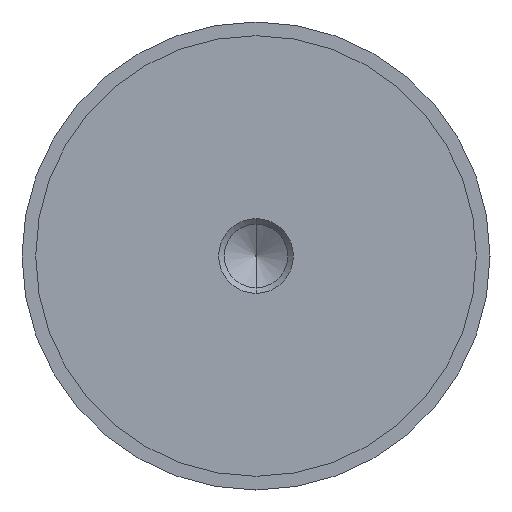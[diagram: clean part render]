
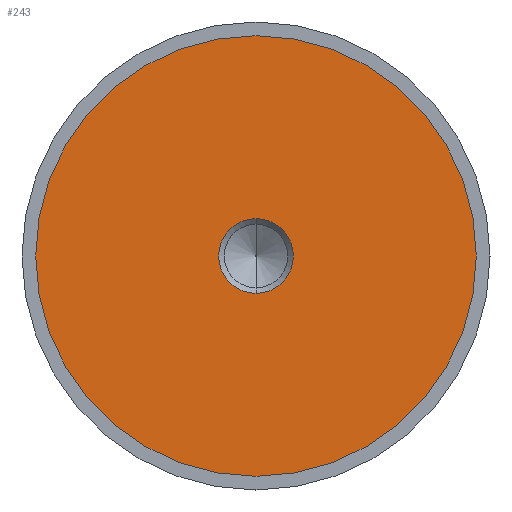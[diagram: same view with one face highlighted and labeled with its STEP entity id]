
A CAD part, left-side view. The second image highlights one B-rep face of the part: STEP entity #243.
In plain terms, the highlighted planar face has unit normal (-1, 0, 0).
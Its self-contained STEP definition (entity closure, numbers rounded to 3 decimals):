
#9 = CARTESIAN_POINT ( 'NONE',  ( -14.99, 0., -5.99 ) ) ;
#11 = VERTEX_POINT ( 'NONE', #128 ) ;
#13 = AXIS2_PLACEMENT_3D ( 'NONE', #161, #674, #208 ) ;
#37 = VERTEX_POINT ( 'NONE', #412 ) ;
#95 = FACE_BOUND ( 'NONE', #238, .T. ) ;
#101 = PLANE ( 'NONE',  #220 ) ;
#128 = CARTESIAN_POINT ( 'NONE',  ( -14.99, 0., -35.3 ) ) ;
#136 = DIRECTION ( 'NONE',  ( 0., 0., -1. ) ) ;
#148 = EDGE_LOOP ( 'NONE', ( #413, #377 ) ) ;
#153 = DIRECTION ( 'NONE',  ( -1., 0., 0. ) ) ;
#155 = DIRECTION ( 'NONE',  ( 0., 0., -1. ) ) ;
#161 = CARTESIAN_POINT ( 'NONE',  ( -14.99, 0., 0. ) ) ;
#172 = CIRCLE ( 'NONE', #419, 5.99 ) ;
#207 = CARTESIAN_POINT ( 'NONE',  ( -14.99, 0., 0. ) ) ;
#208 = DIRECTION ( 'NONE',  ( 0., 0., 1. ) ) ;
#214 = EDGE_CURVE ( 'NONE', #731, #37, #540, .T. ) ;
#220 = AXIS2_PLACEMENT_3D ( 'NONE', #570, #617, #155 ) ;
#221 = CARTESIAN_POINT ( 'NONE',  ( -14.99, 0., 0. ) ) ;
#238 = EDGE_LOOP ( 'NONE', ( #316, #615 ) ) ;
#239 = EDGE_CURVE ( 'NONE', #37, #731, #172, .T. ) ;
#243 = ADVANCED_FACE ( 'NONE', ( #95, #513 ), #101, .F. ) ;
#245 = CARTESIAN_POINT ( 'NONE',  ( -14.99, 0., 0. ) ) ;
#281 = DIRECTION ( 'NONE',  ( 0., 0., -1. ) ) ;
#316 = ORIENTED_EDGE ( 'NONE', *, *, #239, .T. ) ;
#325 = AXIS2_PLACEMENT_3D ( 'NONE', #207, #153, #561 ) ;
#331 = EDGE_CURVE ( 'NONE', #667, #11, #455, .T. ) ;
#377 = ORIENTED_EDGE ( 'NONE', *, *, #639, .T. ) ;
#412 = CARTESIAN_POINT ( 'NONE',  ( -14.99, 0., 5.99 ) ) ;
#413 = ORIENTED_EDGE ( 'NONE', *, *, #331, .T. ) ;
#419 = AXIS2_PLACEMENT_3D ( 'NONE', #221, #559, #281 ) ;
#455 = CIRCLE ( 'NONE', #13, 35.3 ) ;
#513 = FACE_OUTER_BOUND ( 'NONE', #148, .T. ) ;
#540 = CIRCLE ( 'NONE', #708, 5.99 ) ;
#559 = DIRECTION ( 'NONE',  ( 1., 0., 0. ) ) ;
#561 = DIRECTION ( 'NONE',  ( 0., 0., 1. ) ) ;
#570 = CARTESIAN_POINT ( 'NONE',  ( -14.99, 35.3, 0. ) ) ;
#615 = ORIENTED_EDGE ( 'NONE', *, *, #214, .T. ) ;
#617 = DIRECTION ( 'NONE',  ( 1., 0., 0. ) ) ;
#635 = CARTESIAN_POINT ( 'NONE',  ( -14.99, 0., 35.3 ) ) ;
#639 = EDGE_CURVE ( 'NONE', #11, #667, #687, .T. ) ;
#660 = DIRECTION ( 'NONE',  ( 1., 0., 0. ) ) ;
#667 = VERTEX_POINT ( 'NONE', #635 ) ;
#674 = DIRECTION ( 'NONE',  ( -1., 0., 0. ) ) ;
#687 = CIRCLE ( 'NONE', #325, 35.3 ) ;
#708 = AXIS2_PLACEMENT_3D ( 'NONE', #245, #660, #136 ) ;
#731 = VERTEX_POINT ( 'NONE', #9 ) ;
